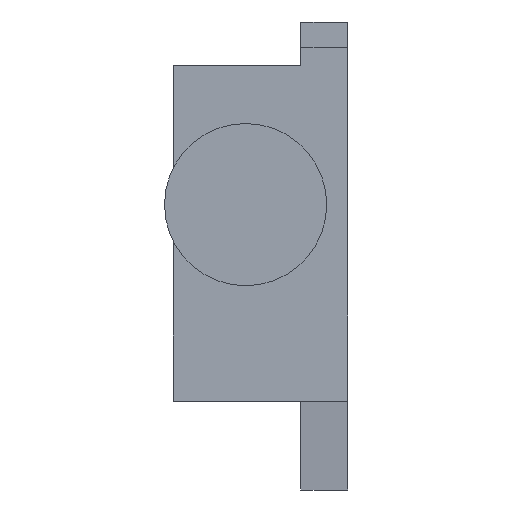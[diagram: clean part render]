
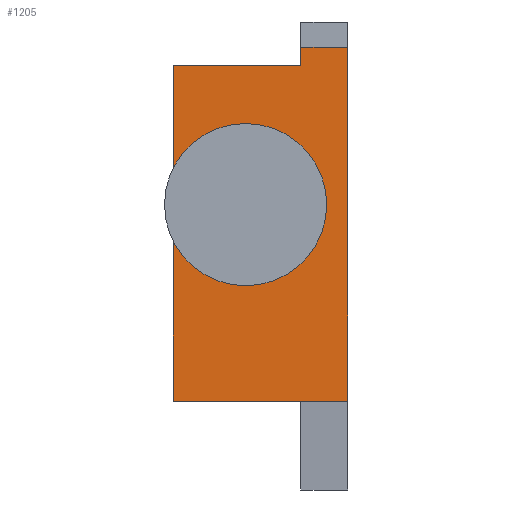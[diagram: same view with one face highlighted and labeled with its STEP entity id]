
A CAD part, left-side view. The second image highlights one B-rep face of the part: STEP entity #1205.
In plain terms, the highlighted planar face has unit normal (-1, 0, 0).
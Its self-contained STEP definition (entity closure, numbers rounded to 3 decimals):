
#1 = CARTESIAN_POINT ( 'NONE',  ( -1049., 20.5, -28.541 ) ) ;
#8 = EDGE_CURVE ( 'NONE', #1053, #1119, #716, .T. ) ;
#89 = EDGE_CURVE ( 'NONE', #1119, #1053, #781, .T. ) ;
#112 = EDGE_CURVE ( 'NONE', #1127, #1154, #796, .T. ) ;
#152 = EDGE_CURVE ( 'NONE', #1127, #1153, #1253, .T. ) ;
#165 = AXIS2_PLACEMENT_3D ( 'NONE', #1841, #1843, #1844 ) ;
#175 = AXIS2_PLACEMENT_3D ( 'NONE', #951, #950, #949 ) ;
#205 = EDGE_CURVE ( 'NONE', #1134, #1146, #1315, .T. ) ;
#265 = EDGE_CURVE ( 'NONE', #1146, #1128, #1374, .T. ) ;
#293 = EDGE_LOOP ( 'NONE', ( #673, #674 ) ) ;
#467 = EDGE_LOOP ( 'NONE', ( #667, #668, #669, #670, #671, #672 ) ) ;
#667 = ORIENTED_EDGE ( 'NONE', *, *, #1189, .F. ) ;
#668 = ORIENTED_EDGE ( 'NONE', *, *, #205, .T. ) ;
#669 = ORIENTED_EDGE ( 'NONE', *, *, #265, .T. ) ;
#670 = ORIENTED_EDGE ( 'NONE', *, *, #1174, .F. ) ;
#671 = ORIENTED_EDGE ( 'NONE', *, *, #112, .F. ) ;
#672 = ORIENTED_EDGE ( 'NONE', *, *, #152, .T. ) ;
#673 = ORIENTED_EDGE ( 'NONE', *, *, #89, .F. ) ;
#674 = ORIENTED_EDGE ( 'NONE', *, *, #8, .F. ) ;
#716 = CIRCLE ( 'NONE', #1180, 5. ) ;
#781 = CIRCLE ( 'NONE', #175, 5. ) ;
#790 = VECTOR ( 'NONE', #922, 1000. ) ;
#796 = LINE ( 'NONE', #930, #790 ) ;
#871 = DIRECTION ( 'NONE',  ( 0., 0., -1. ) ) ;
#874 = CARTESIAN_POINT ( 'NONE',  ( -1049., 5.5, -28.541 ) ) ;
#922 = DIRECTION ( 'NONE',  ( 0., -1., 0. ) ) ;
#930 = CARTESIAN_POINT ( 'NONE',  ( -1049., 5.5, 13.1 ) ) ;
#949 = DIRECTION ( 'NONE',  ( 0., 0., 1. ) ) ;
#950 = DIRECTION ( 'NONE',  ( -1., 0., 0. ) ) ;
#951 = CARTESIAN_POINT ( 'NONE',  ( -1049., 12., -5.4 ) ) ;
#1047 = DIRECTION ( 'NONE',  ( 0., 0., 1. ) ) ;
#1048 = DIRECTION ( 'NONE',  ( -1., 0., 0. ) ) ;
#1049 = CARTESIAN_POINT ( 'NONE',  ( -1049., 12., -5.4 ) ) ;
#1053 = VERTEX_POINT ( 'NONE', #1635 ) ;
#1119 = VERTEX_POINT ( 'NONE', #1706 ) ;
#1127 = VERTEX_POINT ( 'NONE', #1714 ) ;
#1128 = VERTEX_POINT ( 'NONE', #1715 ) ;
#1134 = VERTEX_POINT ( 'NONE', #1721 ) ;
#1146 = VERTEX_POINT ( 'NONE', #1733 ) ;
#1153 = VERTEX_POINT ( 'NONE', #1740 ) ;
#1154 = VERTEX_POINT ( 'NONE', #1741 ) ;
#1174 = EDGE_CURVE ( 'NONE', #1154, #1128, #1379, .T. ) ;
#1180 = AXIS2_PLACEMENT_3D ( 'NONE', #1049, #1048, #1047 ) ;
#1189 = EDGE_CURVE ( 'NONE', #1134, #1153, #1421, .T. ) ;
#1205 = ADVANCED_FACE ( 'NONE', ( #1426, #1437 ), #1824, .F. ) ;
#1253 = LINE ( 'NONE', #874, #1266 ) ;
#1266 = VECTOR ( 'NONE', #871, 1000. ) ;
#1315 = LINE ( 'NONE', #1, #1316 ) ;
#1316 = VECTOR ( 'NONE', #2119, 1000. ) ;
#1366 = VECTOR ( 'NONE', #1634, 1000. ) ;
#1374 = LINE ( 'NONE', #1626, #1366 ) ;
#1379 = LINE ( 'NONE', #1780, #1383 ) ;
#1383 = VECTOR ( 'NONE', #1781, 1000. ) ;
#1421 = LINE ( 'NONE', #1809, #1422 ) ;
#1422 = VECTOR ( 'NONE', #1810, 1000. ) ;
#1426 = FACE_OUTER_BOUND ( 'NONE', #467, .T. ) ;
#1437 = FACE_BOUND ( 'NONE', #293, .T. ) ;
#1626 = CARTESIAN_POINT ( 'NONE',  ( -1049., 20.5, -28.541 ) ) ;
#1634 = DIRECTION ( 'NONE',  ( 0., -1., 0. ) ) ;
#1635 = CARTESIAN_POINT ( 'NONE',  ( -1049., 12., -10.4 ) ) ;
#1706 = CARTESIAN_POINT ( 'NONE',  ( -1049., 12., -0.4 ) ) ;
#1714 = CARTESIAN_POINT ( 'NONE',  ( -1049., 5.5, 13.1 ) ) ;
#1715 = CARTESIAN_POINT ( 'NONE',  ( -1049., 0., -28.541 ) ) ;
#1721 = CARTESIAN_POINT ( 'NONE',  ( -1049., 20.5, 11. ) ) ;
#1733 = CARTESIAN_POINT ( 'NONE',  ( -1049., 20.5, -28.541 ) ) ;
#1740 = CARTESIAN_POINT ( 'NONE',  ( -1049., 5.5, 11. ) ) ;
#1741 = CARTESIAN_POINT ( 'NONE',  ( -1049., 0., 13.1 ) ) ;
#1780 = CARTESIAN_POINT ( 'NONE',  ( -1049., 0., -28.541 ) ) ;
#1781 = DIRECTION ( 'NONE',  ( 0., 0., -1. ) ) ;
#1809 = CARTESIAN_POINT ( 'NONE',  ( -1049., 20.5, 11. ) ) ;
#1810 = DIRECTION ( 'NONE',  ( 0., -1., 0. ) ) ;
#1824 = PLANE ( 'NONE',  #165 ) ;
#1841 = CARTESIAN_POINT ( 'NONE',  ( -1049., 20.5, -28.541 ) ) ;
#1843 = DIRECTION ( 'NONE',  ( 1., 0., 0. ) ) ;
#1844 = DIRECTION ( 'NONE',  ( 0., 0., 1. ) ) ;
#2119 = DIRECTION ( 'NONE',  ( 0., 0., -1. ) ) ;
